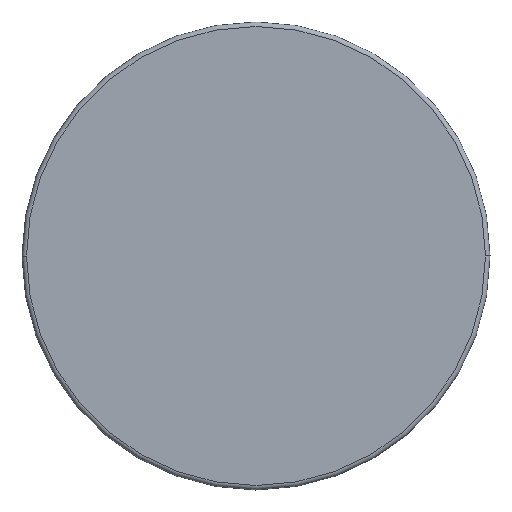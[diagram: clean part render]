
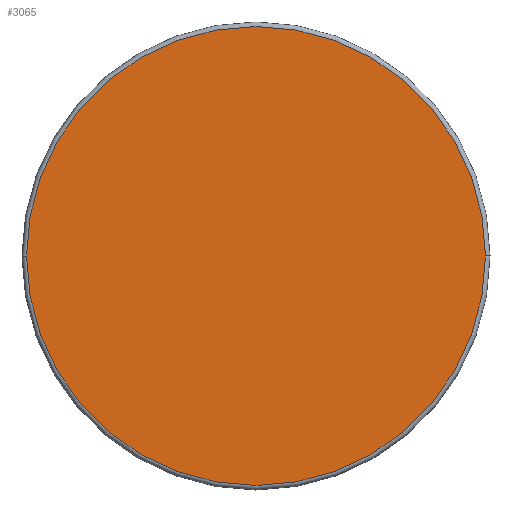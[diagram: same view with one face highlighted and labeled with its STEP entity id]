
A CAD part, front view. The second image highlights one B-rep face of the part: STEP entity #3065.
In plain terms, the highlighted planar face has unit normal (0, -1, 0).
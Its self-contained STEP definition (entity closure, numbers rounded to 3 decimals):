
#208 = AXIS2_PLACEMENT_3D ( 'NONE', #221, #4081, #258 ) ;
#221 = CARTESIAN_POINT ( 'NONE',  ( -24.92, -2.5, 0. ) ) ;
#258 = DIRECTION ( 'NONE',  ( 1., 0., 0. ) ) ;
#424 = FACE_OUTER_BOUND ( 'NONE', #2788, .T. ) ;
#537 = ORIENTED_EDGE ( 'NONE', *, *, #2513, .T. ) ;
#685 = CARTESIAN_POINT ( 'NONE',  ( 25.2, -2.5, 0. ) ) ;
#1312 = CARTESIAN_POINT ( 'NONE',  ( 0., -2.5, 0. ) ) ;
#1413 = PLANE ( 'NONE',  #208 ) ;
#1437 = CIRCLE ( 'NONE', #2071, 25.2 ) ;
#1470 = DIRECTION ( 'NONE',  ( 0., -1., 0. ) ) ;
#1558 = VERTEX_POINT ( 'NONE', #2797 ) ;
#1591 = CARTESIAN_POINT ( 'NONE',  ( 0., -2.5, 0. ) ) ;
#1929 = CIRCLE ( 'NONE', #3944, 25.2 ) ;
#2026 = EDGE_CURVE ( 'NONE', #4030, #1558, #1437, .T. ) ;
#2071 = AXIS2_PLACEMENT_3D ( 'NONE', #1591, #1470, #3435 ) ;
#2513 = EDGE_CURVE ( 'NONE', #1558, #4030, #1929, .T. ) ;
#2689 = ORIENTED_EDGE ( 'NONE', *, *, #2026, .T. ) ;
#2788 = EDGE_LOOP ( 'NONE', ( #2689, #537 ) ) ;
#2797 = CARTESIAN_POINT ( 'NONE',  ( -25.2, -2.5, 0. ) ) ;
#2937 = DIRECTION ( 'NONE',  ( 1., 0., 0. ) ) ;
#3065 = ADVANCED_FACE ( 'NONE', ( #424 ), #1413, .T. ) ;
#3435 = DIRECTION ( 'NONE',  ( 1., 0., 0. ) ) ;
#3854 = DIRECTION ( 'NONE',  ( 0., -1., 0. ) ) ;
#3944 = AXIS2_PLACEMENT_3D ( 'NONE', #1312, #3854, #2937 ) ;
#4030 = VERTEX_POINT ( 'NONE', #685 ) ;
#4081 = DIRECTION ( 'NONE',  ( 0., -1., 0. ) ) ;
